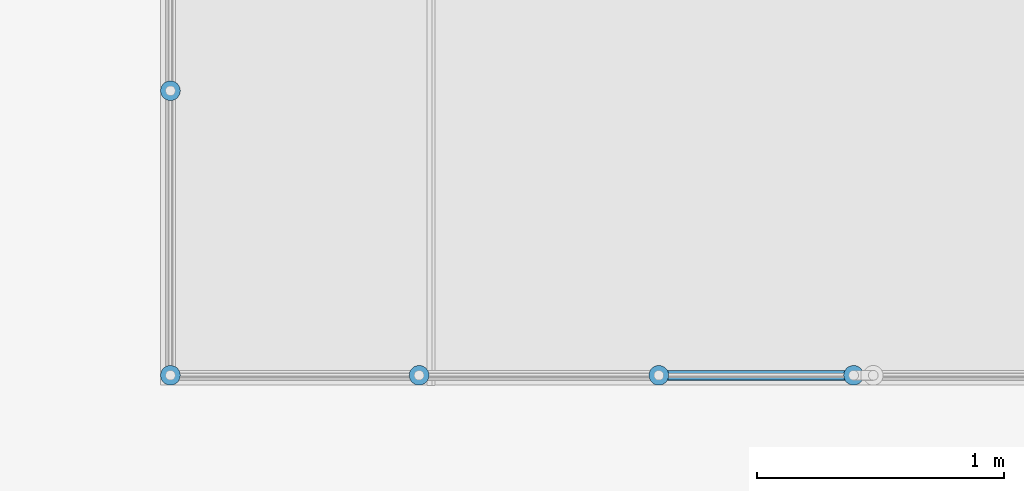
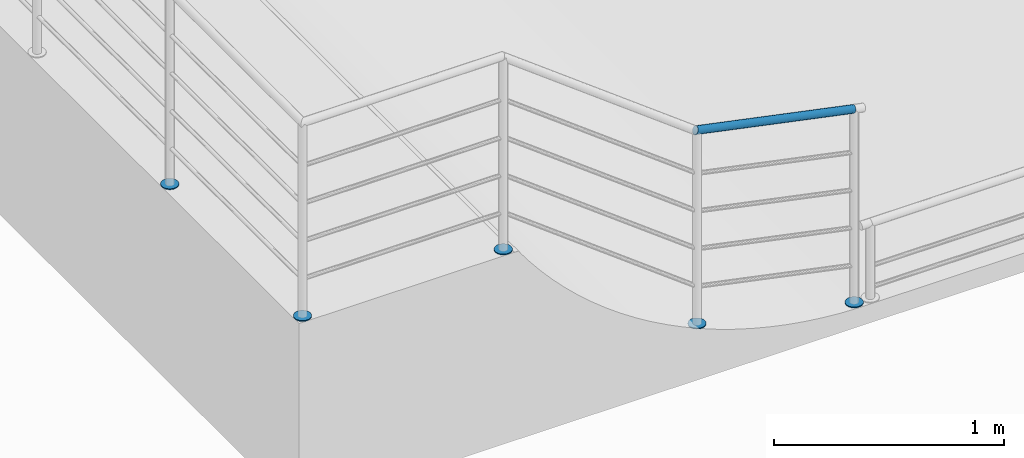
# One storey, part 92 of 237: 6 building element parts, 1 element without a shape of its own.
"""IFC2X3 building model written with IfcOpenShell, lengths in millimetres."""

from ifc_helpers import new_model, entity, si_unit, converted_unit, derived_unit, money_unit, direction, frame, origin_with_axes, place, context, subcontext, project, spatial, faceted_brep, material, type_object, element, aggregate, save


model = new_model("IFC2X3")

# Units and contexts
model_context = context("Model", 3, precision=0.01, world=origin_with_axes(), true_north=direction((0.0, 1.0)))
body_context = subcontext(model_context, "Body", "Model", "MODEL_VIEW")
ifc_project = project(units=[si_unit("LENGTHUNIT", "METRE", prefix="MILLI"), si_unit("AREAUNIT", "SQUARE_METRE"), si_unit("VOLUMEUNIT", "CUBIC_METRE"), converted_unit("PLANEANGLEUNIT", "DEGREE", entity("IfcPlaneAngleMeasure", 0.0174532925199), si_unit("PLANEANGLEUNIT", "RADIAN"), dimensions=[0, 0, 0, 0, 0, 0, 0]), money_unit("USD"), converted_unit("TIMEUNIT", "Year", entity("IfcTimeMeasure", 31556926.0), si_unit("TIMEUNIT", "SECOND"), dimensions=[0, 0, 1, 0, 0, 0, 0]), si_unit("MASSUNIT", "GRAM", prefix="KILO"), si_unit("THERMODYNAMICTEMPERATUREUNIT", "DEGREE_CELSIUS"), si_unit("LUMINOUSINTENSITYUNIT", "LUMEN"), si_unit("ENERGYUNIT", "JOULE", prefix="MEGA"), derived_unit("THERMALCONDUCTANCEUNIT", [(si_unit("POWERUNIT", "WATT"), 1), (si_unit("LENGTHUNIT", "METRE"), -1), (si_unit("THERMODYNAMICTEMPERATUREUNIT", "KELVIN"), -1)]), derived_unit("SPECIFICHEATCAPACITYUNIT", [(si_unit("ENERGYUNIT", "JOULE"), 1), (si_unit("MASSUNIT", "GRAM", prefix="KILO"), -1), (si_unit("THERMODYNAMICTEMPERATUREUNIT", "KELVIN"), -1)]), derived_unit("MASSDENSITYUNIT", [(si_unit("MASSUNIT", "GRAM", prefix="KILO"), 1), (si_unit("VOLUMEUNIT", "CUBIC_METRE"), -1)])], contexts=[model_context])

# Site, building, storey
site_placement = place(None, origin_with_axes())
site = spatial("IfcSite", under=ifc_project, at=site_placement, Name="Local", CompositionType="ELEMENT")
building_placement = place(site_placement, origin_with_axes())
building = spatial("IfcBuilding", under=site, at=building_placement, Name="Construção", CompositionType="ELEMENT")
storey_placement = place(building_placement, origin_with_axes())
storey = spatial("IfcBuildingStorey", under=building, at=storey_placement, Name="Pavimento Térreo", CompositionType="ELEMENT", Elevation=0.0)

# Railing, building element parts
railing_type = type_object("IfcRailingType", Name="Tipo de Guarda-Corpo", PredefinedType="NOTDEFINED")
railing_placement = place(storey_placement, frame((53912.4440926, 33356.4497128, -1263.04952679), z_axis=(0.0, 0.0, 1.0), x_axis=(1.0, 0.0, 0.0)))
railing = element("IfcRailing", 1, at=railing_placement, inside=storey, type_object=railing_type, Name="Guarda-Corpo - 001", PredefinedType="NOTDEFINED")
ifc_material_1 = material(Name="Alumínio")
building_element_part_1_placement = place(railing_placement, origin_with_axes())
building_element_part_1 = element("IfcBuildingElementPart", 2, at=building_element_part_1_placement, material=ifc_material_1, Name="Alumínio", context=body_context, shape_type="Brep", body=[
    faceted_brep([(-2810.0, -5311.51345888, 905.941330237), (-2803.05407289, -5310.905769, 905.941330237), (-2803.05407289, -5310.905769, 910.941330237), (-2810.0, -5311.51345888, 910.941330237), (-2816.94592711, -5310.905769, 905.941330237), (-2823.68080573, -5309.10116371, 905.941330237), (-2830.0, -5306.15447503, 905.941330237), (-2835.71150439, -5302.1552366, 905.941330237), (-2840.64177772, -5297.22496326, 905.941330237), (-2844.64101615, -5291.51345888, 905.941330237), (-2847.58770483, -5285.19426461, 905.941330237), (-2849.39231012, -5278.45938598, 905.941330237), (-2850.0, -5271.51345888, 905.941330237), (-2849.39231012, -5264.56753177, 905.941330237), (-2847.58770483, -5257.83265314, 905.941330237), (-2844.64101615, -5251.51345888, 905.941330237), (-2840.64177772, -5245.80195449, 905.941330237), (-2835.71150439, -5240.87168115, 905.941330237), (-2830.0, -5236.87244273, 905.941330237), (-2823.68080573, -5233.92575405, 905.941330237), (-2816.94592711, -5232.12114876, 905.941330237), (-2810.0, -5231.51345888, 905.941330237), (-2803.05407289, -5232.12114876, 905.941330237), (-2796.31919427, -5233.92575405, 905.941330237), (-2790.0, -5236.87244273, 905.941330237), (-2784.28849561, -5240.87168115, 905.941330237), (-2779.35822228, -5245.80195449, 905.941330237), (-2775.35898385, -5251.51345888, 905.941330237), (-2772.41229517, -5257.83265314, 905.941330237), (-2770.60768988, -5264.56753177, 905.941330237), (-2770.0, -5271.51345888, 905.941330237), (-2770.60768988, -5278.45938598, 905.941330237), (-2772.41229517, -5285.19426461, 905.941330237), (-2775.35898385, -5291.51345888, 905.941330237), (-2779.35822228, -5297.22496326, 905.941330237), (-2784.28849561, -5302.1552366, 905.941330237), (-2790.0, -5306.15447503, 905.941330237), (-2796.31919427, -5309.10116371, 905.941330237), (-2796.31919427, -5309.10116371, 910.941330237), (-2790.0, -5306.15447503, 910.941330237), (-2784.28849561, -5302.1552366, 910.941330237), (-2779.35822228, -5297.22496326, 910.941330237), (-2775.35898385, -5291.51345888, 910.941330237), (-2772.41229517, -5285.19426461, 910.941330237), (-2770.60768988, -5278.45938598, 910.941330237), (-2770.0, -5271.51345888, 910.941330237), (-2770.60768988, -5264.56753177, 910.941330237), (-2772.41229517, -5257.83265314, 910.941330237), (-2775.35898385, -5251.51345888, 910.941330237), (-2779.35822228, -5245.80195449, 910.941330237), (-2784.28849561, -5240.87168115, 910.941330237), (-2790.0, -5236.87244273, 910.941330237), (-2796.31919427, -5233.92575405, 910.941330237), (-2803.05407289, -5232.12114876, 910.941330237), (-2810.0, -5231.51345888, 910.941330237), (-2816.94592711, -5232.12114876, 910.941330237), (-2823.68080573, -5233.92575405, 910.941330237), (-2830.0, -5236.87244273, 910.941330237), (-2835.71150439, -5240.87168115, 910.941330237), (-2840.64177772, -5245.80195449, 910.941330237), (-2844.64101615, -5251.51345888, 910.941330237), (-2847.58770483, -5257.83265314, 910.941330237), (-2849.39231012, -5264.56753177, 910.941330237), (-2850.0, -5271.51345888, 910.941330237), (-2849.39231012, -5278.45938598, 910.941330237), (-2847.58770483, -5285.19426461, 910.941330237), (-2844.64101615, -5291.51345888, 910.941330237), (-2840.64177772, -5297.22496326, 910.941330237), (-2835.71150439, -5302.1552366, 910.941330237), (-2830.0, -5306.15447503, 910.941330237), (-2823.68080573, -5309.10116371, 910.941330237), (-2816.94592711, -5310.905769, 910.941330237)], [[[0, 1, 2, 3]], [[0, 4, 5, 6, 7, 8, 9, 10, 11, 12, 13, 14, 15, 16, 17, 18, 19, 20, 21, 22, 23, 24, 25, 26, 27, 28, 29, 30, 31, 32, 33, 34, 35, 36, 37, 1]], [[1, 37, 38, 2]], [[3, 2, 38, 39, 40, 41, 42, 43, 44, 45, 46, 47, 48, 49, 50, 51, 52, 53, 54, 55, 56, 57, 58, 59, 60, 61, 62, 63, 64, 65, 66, 67, 68, 69, 70, 71]], [[4, 0, 3, 71]], [[5, 4, 71, 70]], [[6, 5, 70, 69]], [[7, 6, 69, 68]], [[8, 7, 68, 67]], [[9, 8, 67, 66]], [[10, 9, 66, 65]], [[11, 10, 65, 64]], [[12, 11, 64, 63]], [[13, 12, 63, 62]], [[14, 13, 62, 61]], [[15, 14, 61, 60]], [[16, 15, 60, 59]], [[17, 16, 59, 58]], [[18, 17, 58, 57]], [[19, 18, 57, 56]], [[20, 19, 56, 55]], [[21, 20, 55, 54]], [[22, 21, 54, 53]], [[23, 22, 53, 52]], [[24, 23, 52, 51]], [[25, 24, 51, 50]], [[26, 25, 50, 49]], [[27, 26, 49, 48]], [[28, 27, 48, 47]], [[29, 28, 47, 46]], [[30, 29, 46, 45]], [[31, 30, 45, 44]], [[32, 31, 44, 43]], [[33, 32, 43, 42]], [[34, 33, 42, 41]], [[35, 34, 41, 40]], [[36, 35, 40, 39]], [[37, 36, 39, 38]]]),
])
building_element_part_2_placement = place(railing_placement, origin_with_axes())
building_element_part_2 = element("IfcBuildingElementPart", 3, at=building_element_part_2_placement, material=ifc_material_1, Name="Alumínio", context=body_context, shape_type="Brep", body=[
    faceted_brep([(-1761.77109729, -5271.51345888, 905.941330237), (-1762.37878717, -5264.56753177, 905.941330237), (-1762.37878717, -5264.56753177, 910.941330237), (-1761.77109729, -5271.51345888, 910.941330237), (-1762.37878717, -5278.45938598, 905.941330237), (-1764.18339246, -5285.19426461, 905.941330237), (-1767.13008114, -5291.51345888, 905.941330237), (-1771.12931957, -5297.22496326, 905.941330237), (-1776.0595929, -5302.1552366, 905.941330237), (-1781.77109729, -5306.15447503, 905.941330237), (-1788.09029156, -5309.10116371, 905.941330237), (-1794.82517018, -5310.905769, 905.941330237), (-1801.77109729, -5311.51345888, 905.941330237), (-1808.7170244, -5310.905769, 905.941330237), (-1815.45190302, -5309.10116371, 905.941330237), (-1821.77109729, -5306.15447503, 905.941330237), (-1827.48260168, -5302.1552366, 905.941330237), (-1832.41287502, -5297.22496326, 905.941330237), (-1836.41211344, -5291.51345888, 905.941330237), (-1839.35880212, -5285.19426461, 905.941330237), (-1841.16340741, -5278.45938598, 905.941330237), (-1841.77109729, -5271.51345888, 905.941330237), (-1841.16340741, -5264.56753177, 905.941330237), (-1839.35880212, -5257.83265314, 905.941330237), (-1836.41211344, -5251.51345888, 905.941330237), (-1832.41287502, -5245.80195449, 905.941330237), (-1827.48260168, -5240.87168115, 905.941330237), (-1821.77109729, -5236.87244273, 905.941330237), (-1815.45190302, -5233.92575405, 905.941330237), (-1808.7170244, -5232.12114876, 905.941330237), (-1801.77109729, -5231.51345888, 905.941330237), (-1794.82517018, -5232.12114876, 905.941330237), (-1788.09029156, -5233.92575405, 905.941330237), (-1781.77109729, -5236.87244273, 905.941330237), (-1776.0595929, -5240.87168115, 905.941330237), (-1771.12931957, -5245.80195449, 905.941330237), (-1767.13008114, -5251.51345888, 905.941330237), (-1764.18339246, -5257.83265314, 905.941330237), (-1764.18339246, -5257.83265314, 910.941330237), (-1767.13008114, -5251.51345888, 910.941330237), (-1771.12931957, -5245.80195449, 910.941330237), (-1776.0595929, -5240.87168115, 910.941330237), (-1781.77109729, -5236.87244273, 910.941330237), (-1788.09029156, -5233.92575405, 910.941330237), (-1794.82517018, -5232.12114876, 910.941330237), (-1801.77109729, -5231.51345888, 910.941330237), (-1808.7170244, -5232.12114876, 910.941330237), (-1815.45190302, -5233.92575405, 910.941330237), (-1821.77109729, -5236.87244273, 910.941330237), (-1827.48260168, -5240.87168115, 910.941330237), (-1832.41287502, -5245.80195449, 910.941330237), (-1836.41211344, -5251.51345888, 910.941330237), (-1839.35880212, -5257.83265314, 910.941330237), (-1841.16340741, -5264.56753177, 910.941330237), (-1841.77109729, -5271.51345888, 910.941330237), (-1841.16340741, -5278.45938598, 910.941330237), (-1839.35880212, -5285.19426461, 910.941330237), (-1836.41211344, -5291.51345888, 910.941330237), (-1832.41287502, -5297.22496326, 910.941330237), (-1827.48260168, -5302.1552366, 910.941330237), (-1821.77109729, -5306.15447503, 910.941330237), (-1815.45190302, -5309.10116371, 910.941330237), (-1808.7170244, -5310.905769, 910.941330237), (-1801.77109729, -5311.51345888, 910.941330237), (-1794.82517018, -5310.905769, 910.941330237), (-1788.09029156, -5309.10116371, 910.941330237), (-1781.77109729, -5306.15447503, 910.941330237), (-1776.0595929, -5302.1552366, 910.941330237), (-1771.12931957, -5297.22496326, 910.941330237), (-1767.13008114, -5291.51345888, 910.941330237), (-1764.18339246, -5285.19426461, 910.941330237), (-1762.37878717, -5278.45938598, 910.941330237)], [[[0, 1, 2, 3]], [[0, 4, 5, 6, 7, 8, 9, 10, 11, 12, 13, 14, 15, 16, 17, 18, 19, 20, 21, 22, 23, 24, 25, 26, 27, 28, 29, 30, 31, 32, 33, 34, 35, 36, 37, 1]], [[1, 37, 38, 2]], [[3, 2, 38, 39, 40, 41, 42, 43, 44, 45, 46, 47, 48, 49, 50, 51, 52, 53, 54, 55, 56, 57, 58, 59, 60, 61, 62, 63, 64, 65, 66, 67, 68, 69, 70, 71]], [[4, 0, 3, 71]], [[5, 4, 71, 70]], [[6, 5, 70, 69]], [[7, 6, 69, 68]], [[8, 7, 68, 67]], [[9, 8, 67, 66]], [[10, 9, 66, 65]], [[11, 10, 65, 64]], [[12, 11, 64, 63]], [[13, 12, 63, 62]], [[14, 13, 62, 61]], [[15, 14, 61, 60]], [[16, 15, 60, 59]], [[17, 16, 59, 58]], [[18, 17, 58, 57]], [[19, 18, 57, 56]], [[20, 19, 56, 55]], [[21, 20, 55, 54]], [[22, 21, 54, 53]], [[23, 22, 53, 52]], [[24, 23, 52, 51]], [[25, 24, 51, 50]], [[26, 25, 50, 49]], [[27, 26, 49, 48]], [[28, 27, 48, 47]], [[29, 28, 47, 46]], [[30, 29, 46, 45]], [[31, 30, 45, 44]], [[32, 31, 44, 43]], [[33, 32, 43, 42]], [[34, 33, 42, 41]], [[35, 34, 41, 40]], [[36, 35, 40, 39]], [[37, 36, 39, 38]]]),
])
building_element_part_3_placement = place(railing_placement, origin_with_axes())
building_element_part_3 = element("IfcBuildingElementPart", 4, at=building_element_part_3_placement, material=ifc_material_1, Name="Alumínio", context=body_context, shape_type="Brep", body=[
    faceted_brep([(-789.671437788, -5271.51345888, 172.183005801), (-790.279127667, -5264.56753177, 172.183005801), (-790.279127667, -5264.56753177, 177.183005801), (-789.671437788, -5271.51345888, 177.183005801), (-790.279127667, -5278.45938598, 172.183005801), (-792.083732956, -5285.19426461, 172.183005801), (-795.030421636, -5291.51345888, 172.183005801), (-799.029660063, -5297.22496326, 172.183005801), (-803.9599334, -5302.1552366, 172.183005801), (-809.671437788, -5306.15447503, 172.183005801), (-815.990632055, -5309.10116371, 172.183005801), (-822.725510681, -5310.905769, 172.183005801), (-829.671437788, -5311.51345888, 172.183005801), (-836.617364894, -5310.905769, 172.183005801), (-843.352243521, -5309.10116371, 172.183005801), (-849.671437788, -5306.15447503, 172.183005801), (-855.382942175, -5302.1552366, 172.183005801), (-860.313215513, -5297.22496326, 172.183005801), (-864.312453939, -5291.51345888, 172.183005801), (-867.259142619, -5285.19426461, 172.183005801), (-869.063747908, -5278.45938598, 172.183005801), (-869.671437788, -5271.51345888, 172.183005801), (-869.063747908, -5264.56753177, 172.183005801), (-867.259142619, -5257.83265314, 172.183005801), (-864.312453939, -5251.51345888, 172.183005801), (-860.313215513, -5245.80195449, 172.183005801), (-855.382942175, -5240.87168115, 172.183005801), (-849.671437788, -5236.87244273, 172.183005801), (-843.352243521, -5233.92575405, 172.183005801), (-836.617364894, -5232.12114876, 172.183005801), (-829.671437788, -5231.51345888, 172.183005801), (-822.725510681, -5232.12114876, 172.183005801), (-815.990632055, -5233.92575405, 172.183005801), (-809.671437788, -5236.87244273, 172.183005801), (-803.9599334, -5240.87168115, 172.183005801), (-799.029660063, -5245.80195449, 172.183005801), (-795.030421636, -5251.51345888, 172.183005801), (-792.083732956, -5257.83265314, 172.183005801), (-792.083732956, -5257.83265314, 177.183005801), (-795.030421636, -5251.51345888, 177.183005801), (-799.029660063, -5245.80195449, 177.183005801), (-803.9599334, -5240.87168115, 177.183005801), (-809.671437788, -5236.87244273, 177.183005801), (-815.990632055, -5233.92575405, 177.183005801), (-822.725510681, -5232.12114876, 177.183005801), (-829.671437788, -5231.51345888, 177.183005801), (-836.617364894, -5232.12114876, 177.183005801), (-843.352243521, -5233.92575405, 177.183005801), (-849.671437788, -5236.87244273, 177.183005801), (-855.382942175, -5240.87168115, 177.183005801), (-860.313215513, -5245.80195449, 177.183005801), (-864.312453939, -5251.51345888, 177.183005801), (-867.259142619, -5257.83265314, 177.183005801), (-869.063747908, -5264.56753177, 177.183005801), (-869.671437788, -5271.51345888, 177.183005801), (-869.063747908, -5278.45938598, 177.183005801), (-867.259142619, -5285.19426461, 177.183005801), (-864.312453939, -5291.51345888, 177.183005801), (-860.313215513, -5297.22496326, 177.183005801), (-855.382942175, -5302.1552366, 177.183005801), (-849.671437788, -5306.15447503, 177.183005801), (-843.352243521, -5309.10116371, 177.183005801), (-836.617364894, -5310.905769, 177.183005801), (-829.671437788, -5311.51345888, 177.183005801), (-822.725510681, -5310.905769, 177.183005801), (-815.990632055, -5309.10116371, 177.183005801), (-809.671437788, -5306.15447503, 177.183005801), (-803.9599334, -5302.1552366, 177.183005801), (-799.029660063, -5297.22496326, 177.183005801), (-795.030421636, -5291.51345888, 177.183005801), (-792.083732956, -5285.19426461, 177.183005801), (-790.279127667, -5278.45938598, 177.183005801)], [[[0, 1, 2, 3]], [[0, 4, 5, 6, 7, 8, 9, 10, 11, 12, 13, 14, 15, 16, 17, 18, 19, 20, 21, 22, 23, 24, 25, 26, 27, 28, 29, 30, 31, 32, 33, 34, 35, 36, 37, 1]], [[1, 37, 38, 2]], [[3, 2, 38, 39, 40, 41, 42, 43, 44, 45, 46, 47, 48, 49, 50, 51, 52, 53, 54, 55, 56, 57, 58, 59, 60, 61, 62, 63, 64, 65, 66, 67, 68, 69, 70, 71]], [[4, 0, 3, 71]], [[5, 4, 71, 70]], [[6, 5, 70, 69]], [[7, 6, 69, 68]], [[8, 7, 68, 67]], [[9, 8, 67, 66]], [[10, 9, 66, 65]], [[11, 10, 65, 64]], [[12, 11, 64, 63]], [[13, 12, 63, 62]], [[14, 13, 62, 61]], [[15, 14, 61, 60]], [[16, 15, 60, 59]], [[17, 16, 59, 58]], [[18, 17, 58, 57]], [[19, 18, 57, 56]], [[20, 19, 56, 55]], [[21, 20, 55, 54]], [[22, 21, 54, 53]], [[23, 22, 53, 52]], [[24, 23, 52, 51]], [[25, 24, 51, 50]], [[26, 25, 50, 49]], [[27, 26, 49, 48]], [[28, 27, 48, 47]], [[29, 28, 47, 46]], [[30, 29, 46, 45]], [[31, 30, 45, 44]], [[32, 31, 44, 43]], [[33, 32, 43, 42]], [[34, 33, 42, 41]], [[35, 34, 41, 40]], [[36, 35, 40, 39]], [[37, 36, 39, 38]]]),
])
building_element_part_4_placement = place(railing_placement, origin_with_axes())
building_element_part_4 = element("IfcBuildingElementPart", 5, at=building_element_part_4_placement, material=ifc_material_1, Name="Alumínio", context=body_context, shape_type="Brep", body=[
    faceted_brep([(0.0, -5271.51345888, 8.30126230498), (-0.60768987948, -5264.56753177, 8.30126230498), (-0.60768987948, -5264.56753177, 13.301262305), (0.0, -5271.51345888, 13.301262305), (-0.60768987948, -5278.45938598, 8.30126230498), (-2.41229516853, -5285.19426461, 8.30126230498), (-5.35898384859, -5291.51345888, 8.30126230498), (-9.35822227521, -5297.22496326, 8.30126230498), (-14.2884956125, -5302.1552366, 8.30126230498), (-20.0, -5306.15447503, 8.30126230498), (-26.3191942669, -5309.10116371, 8.30126230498), (-33.0540728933, -5310.905769, 8.30126230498), (-40.0, -5311.51345888, 8.30126230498), (-46.9459271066, -5310.905769, 8.30126230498), (-53.680805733, -5309.10116371, 8.30126230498), (-60.0, -5306.15447503, 8.30126230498), (-65.7115043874, -5302.1552366, 8.30126230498), (-70.6417777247, -5297.22496326, 8.30126230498), (-74.6410161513, -5291.51345888, 8.30126230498), (-77.5877048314, -5285.19426461, 8.30126230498), (-79.3923101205, -5278.45938598, 8.30126230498), (-80.0, -5271.51345888, 8.30126230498), (-79.3923101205, -5264.56753177, 8.30126230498), (-77.5877048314, -5257.83265314, 8.30126230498), (-74.6410161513, -5251.51345888, 8.30126230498), (-70.6417777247, -5245.80195449, 8.30126230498), (-65.7115043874, -5240.87168115, 8.30126230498), (-60.0, -5236.87244273, 8.30126230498), (-53.680805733, -5233.92575405, 8.30126230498), (-46.9459271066, -5232.12114876, 8.30126230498), (-40.0, -5231.51345888, 8.30126230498), (-33.0540728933, -5232.12114876, 8.30126230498), (-26.3191942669, -5233.92575405, 8.30126230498), (-20.0, -5236.87244273, 8.30126230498), (-14.2884956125, -5240.87168115, 8.30126230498), (-9.35822227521, -5245.80195449, 8.30126230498), (-5.35898384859, -5251.51345888, 8.30126230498), (-2.41229516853, -5257.83265314, 8.30126230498), (-2.41229516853, -5257.83265314, 13.301262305), (-5.35898384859, -5251.51345888, 13.301262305), (-9.35822227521, -5245.80195449, 13.301262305), (-14.2884956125, -5240.87168115, 13.301262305), (-20.0, -5236.87244273, 13.301262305), (-26.3191942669, -5233.92575405, 13.301262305), (-33.0540728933, -5232.12114876, 13.301262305), (-40.0, -5231.51345888, 13.301262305), (-46.9459271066, -5232.12114876, 13.301262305), (-53.680805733, -5233.92575405, 13.301262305), (-60.0, -5236.87244273, 13.301262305), (-65.7115043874, -5240.87168115, 13.301262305), (-70.6417777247, -5245.80195449, 13.301262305), (-74.6410161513, -5251.51345888, 13.301262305), (-77.5877048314, -5257.83265314, 13.301262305), (-79.3923101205, -5264.56753177, 13.301262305), (-80.0, -5271.51345888, 13.301262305), (-79.3923101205, -5278.45938598, 13.301262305), (-77.5877048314, -5285.19426461, 13.301262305), (-74.6410161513, -5291.51345888, 13.301262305), (-70.6417777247, -5297.22496326, 13.301262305), (-65.7115043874, -5302.1552366, 13.301262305), (-60.0, -5306.15447503, 13.301262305), (-53.680805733, -5309.10116371, 13.301262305), (-46.9459271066, -5310.905769, 13.301262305), (-40.0, -5311.51345888, 13.301262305), (-33.0540728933, -5310.905769, 13.301262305), (-26.3191942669, -5309.10116371, 13.301262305), (-20.0, -5306.15447503, 13.301262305), (-14.2884956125, -5302.1552366, 13.301262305), (-9.35822227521, -5297.22496326, 13.301262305), (-5.35898384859, -5291.51345888, 13.301262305), (-2.41229516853, -5285.19426461, 13.301262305), (-0.60768987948, -5278.45938598, 13.301262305)], [[[0, 1, 2, 3]], [[0, 4, 5, 6, 7, 8, 9, 10, 11, 12, 13, 14, 15, 16, 17, 18, 19, 20, 21, 22, 23, 24, 25, 26, 27, 28, 29, 30, 31, 32, 33, 34, 35, 36, 37, 1]], [[1, 37, 38, 2]], [[3, 2, 38, 39, 40, 41, 42, 43, 44, 45, 46, 47, 48, 49, 50, 51, 52, 53, 54, 55, 56, 57, 58, 59, 60, 61, 62, 63, 64, 65, 66, 67, 68, 69, 70, 71]], [[4, 0, 3, 71]], [[5, 4, 71, 70]], [[6, 5, 70, 69]], [[7, 6, 69, 68]], [[8, 7, 68, 67]], [[9, 8, 67, 66]], [[10, 9, 66, 65]], [[11, 10, 65, 64]], [[12, 11, 64, 63]], [[13, 12, 63, 62]], [[14, 13, 62, 61]], [[15, 14, 61, 60]], [[16, 15, 60, 59]], [[17, 16, 59, 58]], [[18, 17, 58, 57]], [[19, 18, 57, 56]], [[20, 19, 56, 55]], [[21, 20, 55, 54]], [[22, 21, 54, 53]], [[23, 22, 53, 52]], [[24, 23, 52, 51]], [[25, 24, 51, 50]], [[26, 25, 50, 49]], [[27, 26, 49, 48]], [[28, 27, 48, 47]], [[29, 28, 47, 46]], [[30, 29, 46, 45]], [[31, 30, 45, 44]], [[32, 31, 44, 43]], [[33, 32, 43, 42]], [[34, 33, 42, 41]], [[35, 34, 41, 40]], [[36, 35, 40, 39]], [[37, 36, 39, 38]]]),
])
building_element_part_5_placement = place(railing_placement, origin_with_axes())
building_element_part_5 = element("IfcBuildingElementPart", 6, at=building_element_part_5_placement, material=ifc_material_1, Name="Alumínio", context=body_context, shape_type="Brep", body=[
    faceted_brep([(-2810.0, -4157.51928985, 905.941330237), (-2803.05407289, -4156.91159997, 905.941330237), (-2803.05407289, -4156.91159997, 910.941330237), (-2810.0, -4157.51928985, 910.941330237), (-2816.94592711, -4156.91159997, 905.941330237), (-2823.68080573, -4155.10699468, 905.941330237), (-2830.0, -4152.160306, 905.941330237), (-2835.71150439, -4148.16106757, 905.941330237), (-2840.64177772, -4143.23079423, 905.941330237), (-2844.64101615, -4137.51928985, 905.941330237), (-2847.58770483, -4131.20009558, 905.941330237), (-2849.39231012, -4124.46521695, 905.941330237), (-2850.0, -4117.51928985, 905.941330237), (-2849.39231012, -4110.57336274, 905.941330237), (-2847.58770483, -4103.83848411, 905.941330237), (-2844.64101615, -4097.51928985, 905.941330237), (-2840.64177772, -4091.80778546, 905.941330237), (-2835.71150439, -4086.87751212, 905.941330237), (-2830.0, -4082.8782737, 905.941330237), (-2823.68080573, -4079.93158502, 905.941330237), (-2816.94592711, -4078.12697973, 905.941330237), (-2810.0, -4077.51928985, 905.941330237), (-2803.05407289, -4078.12697973, 905.941330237), (-2796.31919427, -4079.93158502, 905.941330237), (-2790.0, -4082.8782737, 905.941330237), (-2784.28849561, -4086.87751212, 905.941330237), (-2779.35822228, -4091.80778546, 905.941330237), (-2775.35898385, -4097.51928985, 905.941330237), (-2772.41229517, -4103.83848411, 905.941330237), (-2770.60768988, -4110.57336274, 905.941330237), (-2770.0, -4117.51928985, 905.941330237), (-2770.60768988, -4124.46521695, 905.941330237), (-2772.41229517, -4131.20009558, 905.941330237), (-2775.35898385, -4137.51928985, 905.941330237), (-2779.35822228, -4143.23079423, 905.941330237), (-2784.28849561, -4148.16106757, 905.941330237), (-2790.0, -4152.160306, 905.941330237), (-2796.31919427, -4155.10699468, 905.941330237), (-2796.31919427, -4155.10699468, 910.941330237), (-2790.0, -4152.160306, 910.941330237), (-2784.28849561, -4148.16106757, 910.941330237), (-2779.35822228, -4143.23079423, 910.941330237), (-2775.35898385, -4137.51928985, 910.941330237), (-2772.41229517, -4131.20009558, 910.941330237), (-2770.60768988, -4124.46521695, 910.941330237), (-2770.0, -4117.51928985, 910.941330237), (-2770.60768988, -4110.57336274, 910.941330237), (-2772.41229517, -4103.83848411, 910.941330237), (-2775.35898385, -4097.51928985, 910.941330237), (-2779.35822228, -4091.80778546, 910.941330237), (-2784.28849561, -4086.87751212, 910.941330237), (-2790.0, -4082.8782737, 910.941330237), (-2796.31919427, -4079.93158502, 910.941330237), (-2803.05407289, -4078.12697973, 910.941330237), (-2810.0, -4077.51928985, 910.941330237), (-2816.94592711, -4078.12697973, 910.941330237), (-2823.68080573, -4079.93158502, 910.941330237), (-2830.0, -4082.8782737, 910.941330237), (-2835.71150439, -4086.87751212, 910.941330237), (-2840.64177772, -4091.80778546, 910.941330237), (-2844.64101615, -4097.51928985, 910.941330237), (-2847.58770483, -4103.83848411, 910.941330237), (-2849.39231012, -4110.57336274, 910.941330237), (-2850.0, -4117.51928985, 910.941330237), (-2849.39231012, -4124.46521695, 910.941330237), (-2847.58770483, -4131.20009558, 910.941330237), (-2844.64101615, -4137.51928985, 910.941330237), (-2840.64177772, -4143.23079423, 910.941330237), (-2835.71150439, -4148.16106757, 910.941330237), (-2830.0, -4152.160306, 910.941330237), (-2823.68080573, -4155.10699468, 910.941330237), (-2816.94592711, -4156.91159997, 910.941330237)], [[[0, 1, 2, 3]], [[0, 4, 5, 6, 7, 8, 9, 10, 11, 12, 13, 14, 15, 16, 17, 18, 19, 20, 21, 22, 23, 24, 25, 26, 27, 28, 29, 30, 31, 32, 33, 34, 35, 36, 37, 1]], [[1, 37, 38, 2]], [[3, 2, 38, 39, 40, 41, 42, 43, 44, 45, 46, 47, 48, 49, 50, 51, 52, 53, 54, 55, 56, 57, 58, 59, 60, 61, 62, 63, 64, 65, 66, 67, 68, 69, 70, 71]], [[4, 0, 3, 71]], [[5, 4, 71, 70]], [[6, 5, 70, 69]], [[7, 6, 69, 68]], [[8, 7, 68, 67]], [[9, 8, 67, 66]], [[10, 9, 66, 65]], [[11, 10, 65, 64]], [[12, 11, 64, 63]], [[13, 12, 63, 62]], [[14, 13, 62, 61]], [[15, 14, 61, 60]], [[16, 15, 60, 59]], [[17, 16, 59, 58]], [[18, 17, 58, 57]], [[19, 18, 57, 56]], [[20, 19, 56, 55]], [[21, 20, 55, 54]], [[22, 21, 54, 53]], [[23, 22, 53, 52]], [[24, 23, 52, 51]], [[25, 24, 51, 50]], [[26, 25, 50, 49]], [[27, 26, 49, 48]], [[28, 27, 48, 47]], [[29, 28, 47, 46]], [[30, 29, 46, 45]], [[31, 30, 45, 44]], [[32, 31, 44, 43]], [[33, 32, 43, 42]], [[34, 33, 42, 41]], [[35, 34, 41, 40]], [[36, 35, 40, 39]], [[37, 36, 39, 38]]]),
])
ifc_material_2 = material(Name="Aço - Inoxidável")
building_element_part_6_placement = place(railing_placement, origin_with_axes())
building_element_part_6 = element("IfcBuildingElementPart", 7, at=building_element_part_6_placement, material=ifc_material_2, Name="Aço - Inoxidável", context=body_context, shape_type="Brep", body=[
    faceted_brep([(-838.134613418, -5251.51345888, 1203.51322851), (-836.664998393, -5251.81730382, 1206.75520132), (-43.3583235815, -5251.81730382, 1042.11903142), (-44.0640360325, -5251.51345888, 1038.71852472), (-839.604228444, -5251.81730382, 1200.27125571), (-841.029189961, -5252.71960646, 1197.12778861), (-842.366201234, -5254.1929508, 1194.17833987), (-843.574637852, -5256.19257001, 1191.512527), (-844.617782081, -5258.65770668, 1189.21134937), (-845.463938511, -5261.51345888, 1187.3447271), (-846.087397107, -5264.67305601, 1185.96937657), (-846.469214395, -5268.04049532, 1185.12708709), (-846.597789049, -5271.51345888, 1184.84345123), (-846.469214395, -5274.98642243, 1185.12708709), (-846.087397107, -5278.35386174, 1185.96937657), (-845.463938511, -5281.51345888, 1187.3447271), (-844.617782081, -5284.36921107, 1189.21134937), (-843.574637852, -5286.83434774, 1191.512527), (-842.366201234, -5288.83396695, 1194.17833987), (-841.029189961, -5290.30731129, 1197.12778861), (-839.604228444, -5291.20961394, 1200.27125571), (-838.134613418, -5291.51345888, 1203.51322851), (-836.664998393, -5291.20961394, 1206.75520132), (-835.240036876, -5290.30731129, 1209.89866842), (-833.903025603, -5288.83396695, 1212.84811716), (-832.694588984, -5286.83434774, 1215.51393003), (-831.651444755, -5284.36921107, 1217.81510766), (-830.805288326, -5281.51345888, 1219.68172993), (-830.18182973, -5278.35386174, 1221.05708046), (-829.800012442, -5274.98642243, 1221.89936993), (-829.671437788, -5271.51345888, 1222.1830058), (-829.800012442, -5268.04049532, 1221.89936993), (-830.18182973, -5264.67305601, 1221.05708046), (-830.805288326, -5261.51345888, 1219.68172993), (-831.651444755, -5258.65770668, 1217.81510766), (-832.694588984, -5256.19257001, 1215.51393003), (-833.903025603, -5254.1929508, 1212.84811716), (-835.240036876, -5252.71960646, 1209.89866842), (-42.6740538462, -5252.71960646, 1045.41621544), (-42.0320180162, -5254.1929508, 1048.50989351), (-41.4517240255, -5256.19257001, 1051.30606581), (-40.9508038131, -5258.65770668, 1053.71977203), (-40.5444775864, -5261.51345888, 1055.67767294), (-40.2450913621, -5264.67305601, 1057.12027872), (-40.0617418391, -5268.04049532, 1058.00375652), (-40.0, -5271.51345888, 1058.3012623), (-40.0617418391, -5274.98642243, 1058.00375652), (-40.2450913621, -5278.35386174, 1057.12027872), (-40.5444775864, -5281.51345888, 1055.67767294), (-40.9508038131, -5284.36921107, 1053.71977203), (-41.4517240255, -5286.83434774, 1051.30606581), (-42.0320180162, -5288.83396695, 1048.50989351), (-42.6740538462, -5290.30731129, 1045.41621544), (-43.3583235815, -5291.20961394, 1042.11903142), (-44.0640360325, -5291.51345888, 1038.71852472), (-44.7697484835, -5291.20961394, 1035.31801803), (-45.4540182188, -5290.30731129, 1032.02083401), (-46.0960540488, -5288.83396695, 1028.92715594), (-46.6763480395, -5286.83434774, 1026.13098364), (-47.1772682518, -5284.36921107, 1023.71727742), (-47.5835944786, -5281.51345888, 1021.75937651), (-47.8829807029, -5278.35386174, 1020.31677073), (-48.0663302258, -5274.98642243, 1019.43329293), (-48.128072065, -5271.51345888, 1019.13578715), (-48.0663302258, -5268.04049532, 1019.43329293), (-47.8829807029, -5264.67305601, 1020.31677073), (-47.5835944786, -5261.51345888, 1021.75937651), (-47.1772682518, -5258.65770668, 1023.71727742), (-46.6763480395, -5256.19257001, 1026.13098364), (-46.0960540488, -5254.1929508, 1028.92715594), (-45.4540182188, -5252.71960646, 1032.02083401), (-44.7697484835, -5251.81730382, 1035.31801803)], [[[0, 1, 2, 3]], [[0, 4, 5, 6, 7, 8, 9, 10, 11, 12, 13, 14, 15, 16, 17, 18, 19, 20, 21, 22, 23, 24, 25, 26, 27, 28, 29, 30, 31, 32, 33, 34, 35, 36, 37, 1]], [[1, 37, 38, 2]], [[3, 2, 38, 39, 40, 41, 42, 43, 44, 45, 46, 47, 48, 49, 50, 51, 52, 53, 54, 55, 56, 57, 58, 59, 60, 61, 62, 63, 64, 65, 66, 67, 68, 69, 70, 71]], [[4, 0, 3, 71]], [[5, 4, 71, 70]], [[6, 5, 70, 69]], [[7, 6, 69, 68]], [[8, 7, 68, 67]], [[9, 8, 67, 66]], [[10, 9, 66, 65]], [[11, 10, 65, 64]], [[12, 11, 64, 63]], [[13, 12, 63, 62]], [[14, 13, 62, 61]], [[15, 14, 61, 60]], [[16, 15, 60, 59]], [[17, 16, 59, 58]], [[18, 17, 58, 57]], [[19, 18, 57, 56]], [[20, 19, 56, 55]], [[21, 20, 55, 54]], [[22, 21, 54, 53]], [[23, 22, 53, 52]], [[24, 23, 52, 51]], [[25, 24, 51, 50]], [[26, 25, 50, 49]], [[27, 26, 49, 48]], [[28, 27, 48, 47]], [[29, 28, 47, 46]], [[30, 29, 46, 45]], [[31, 30, 45, 44]], [[32, 31, 44, 43]], [[33, 32, 43, 42]], [[34, 33, 42, 41]], [[35, 34, 41, 40]], [[36, 35, 40, 39]], [[37, 36, 39, 38]]]),
])
aggregate(railing, [building_element_part_1, building_element_part_2, building_element_part_3, building_element_part_4, building_element_part_5, building_element_part_6])

save(model, "model.ifc")
